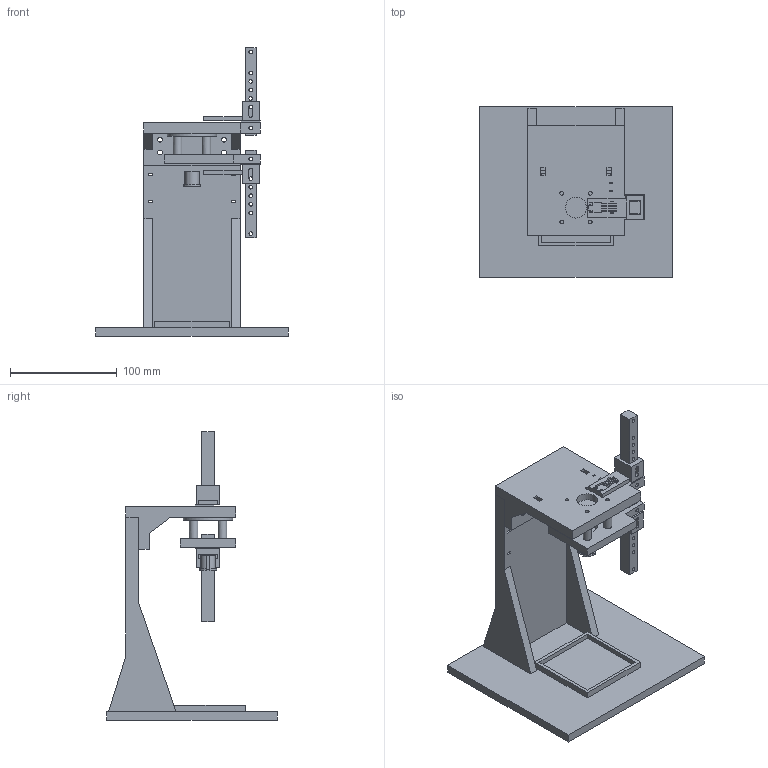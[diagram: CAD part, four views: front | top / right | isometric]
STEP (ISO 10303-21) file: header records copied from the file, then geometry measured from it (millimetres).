
FILE_DESCRIPTION(('Open CASCADE Model'),'2;1');
FILE_NAME('Open CASCADE Shape Model','2026-11-12T16:33:15',('Author'),( 'Open CASCADE'),'Open CASCADE STEP processor 7.9','Open CASCADE 7.9' ,'Unknown');
FILE_SCHEMA(('AUTOMOTIVE_DESIGN { 1 0 10303 214 1 1 1 1 }'));
Length unit declared in the file: millimetre
Products named in the file (9): eight_printed_bodies_four_jobs; 01_frame_base_upright_tray; 02_cantilever_vented_head_upper_sensor; 03_four_DC1_stack_cassette_lower_LPG_seat; 04_D68_payload_carrier; 05_upper_indexed_rail; 06_lower_indexed_rail; 07_upper_LPG_sliding_carriage; 08_lower_LPG_sliding_carriage
Assembly tree (8 placements, depth 2):
  eight_printed_bodies_four_jobs
    01_frame_base_upright_tray
    02_cantilever_vented_head_upper_sensor
    03_four_DC1_stack_cassette_lower_LPG_seat
    04_D68_payload_carrier
    05_upper_indexed_rail
    06_lower_indexed_rail
    07_upper_LPG_sliding_carriage
    08_lower_LPG_sliding_carriage
Bounding box: 180 x 160 x 270 mm (x, y, z)
Volume: 657469.5 mm3; surface area: 180007.4 mm2
Topology: 8 solids, 8 shells, 350 faces, 973 edges, 646 vertices
Faces by surface type: plane 295, cylinder 55
Full cylindrical faces by diameter (mm): 3.4 x26, 4.5 x8, 8 x4, 10 x1, 19.6 x2, 26 x1, 46 x1
Entity records: 23601 total; most frequent: CARTESIAN_POINT 4584, DIRECTION 3134, LINE 2069, VECTOR 2069, ORIENTED_EDGE 1946, PCURVE 1946, DEFINITIONAL_REPRESENTATION 1946, EDGE_CURVE 973
